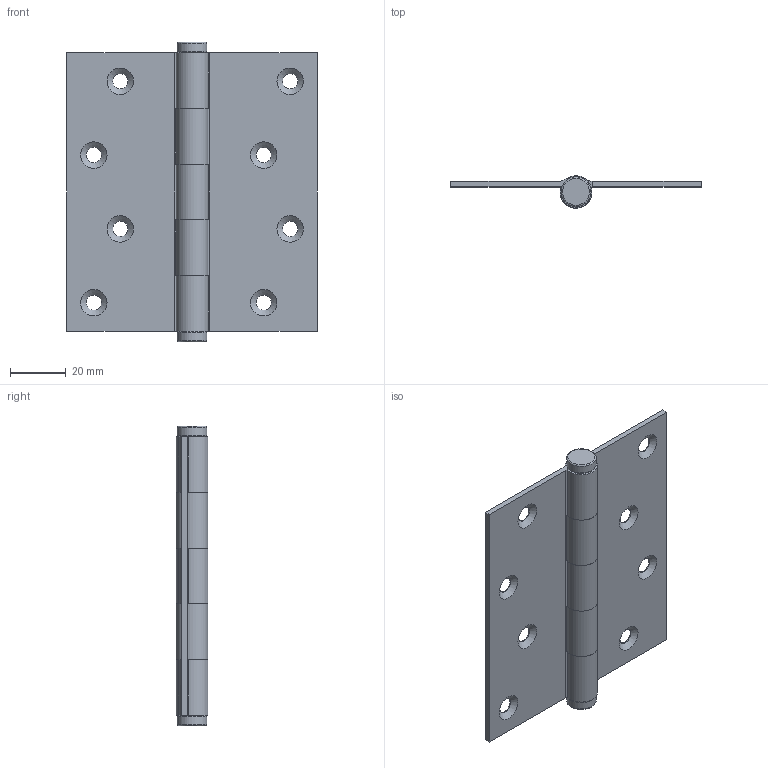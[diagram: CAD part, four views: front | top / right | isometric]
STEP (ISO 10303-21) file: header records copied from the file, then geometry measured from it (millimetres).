
FILE_DESCRIPTION(/* description */ (''),/* implementation_level */ '2;1');
FILE_NAME(/* name */ '\\NAS\db20\HH10090-20\DR_HH10090-20.stp',/* time_stamp */ '2017-08-16T15:25:23+09:00',/* author */ ('user'),/* organization */ (''),/* preprocessor_version */ 'ST-DEVELOPER v15.6',/* originating_system */ 'Autodesk Inventor 2015',/* authorisation */ '');
FILE_SCHEMA (('AUTOMOTIVE_DESIGN { 1 0 10303 214 3 1 1 }'));
Length unit declared in the file: millimetre
Products named in the file (3): DR_HH10090-20-1; DR_HH10090-20-2; DR_HH10090-20
Bounding box: 90 x 11.47 x 107.6 mm (x, y, z)
Volume: 26052 mm3; surface area: 25966.6 mm2
Topology: 3 solids, 3 shells, 69 faces, 179 edges, 118 vertices
Faces by surface type: plane 32, cylinder 25, cone 8, torus 4
Full cylindrical faces by diameter (mm): 5.5 x8, 7.5 x1, 10.7 x2
Entity records: 2055 total; most frequent: DIRECTION 374, CARTESIAN_POINT 332, ORIENTED_EDGE 296, AXIS2_PLACEMENT_3D 152, EDGE_CURVE 148, EDGE_LOOP 110, VERTEX_POINT 110, CIRCLE 78
